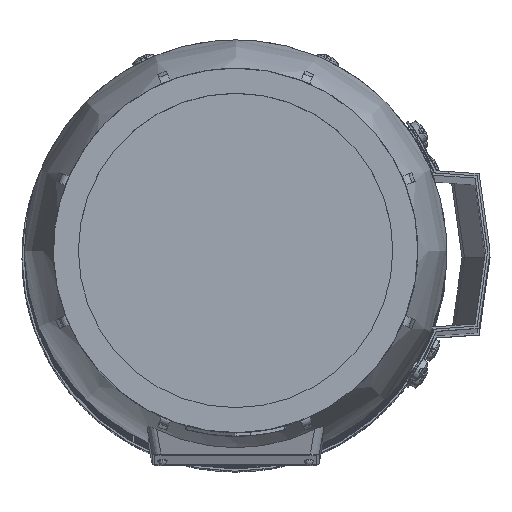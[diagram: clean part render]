
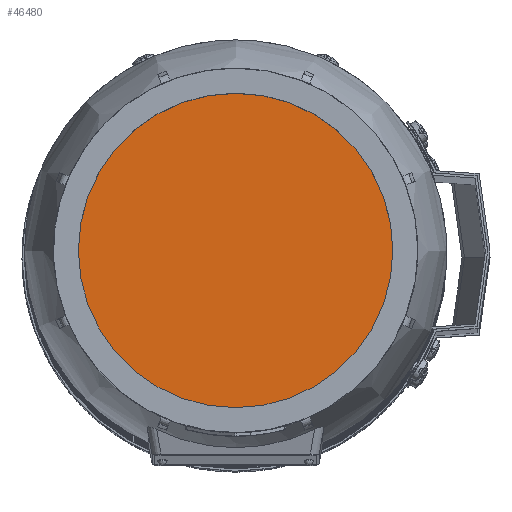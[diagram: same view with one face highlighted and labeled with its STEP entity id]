
A CAD part, top view. The second image highlights one B-rep face of the part: STEP entity #46480.
In plain terms, the highlighted planar face has unit normal (0, 0, 1) as drawn and (0, 1, 0) by its records, which use the part's own axes.
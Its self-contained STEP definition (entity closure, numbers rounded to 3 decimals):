
#9813=ORIENTED_EDGE('',*,*,#23869,.F.);
#23869=EDGE_CURVE('',#30897,#30897,#35627,.T.);
#30897=VERTEX_POINT('',#67103);
#35627=CIRCLE('',#49019,67.736);
#37750=EDGE_LOOP('',(#9813));
#41104=FACE_BOUND('',#37750,.T.);
#44476=PLANE('',#49018);
#46480=ADVANCED_FACE('',(#41104),#44476,.F.);
#49018=AXIS2_PLACEMENT_3D('',#67101,#53614,#53615);
#49019=AXIS2_PLACEMENT_3D('',#67102,#53616,#53617);
#53614=DIRECTION('',(0.,-1.,0.));
#53615=DIRECTION('',(0.,0.,-1.));
#53616=DIRECTION('',(0.,-1.,0.));
#53617=DIRECTION('',(0.,0.,-1.));
#67101=CARTESIAN_POINT('',(0.,154.,0.));
#67102=CARTESIAN_POINT('',(0.,154.,0.));
#67103=CARTESIAN_POINT('',(0.,154.,-67.736));
